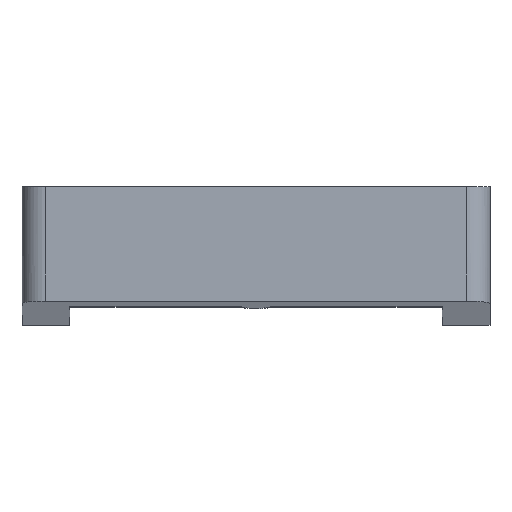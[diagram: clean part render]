
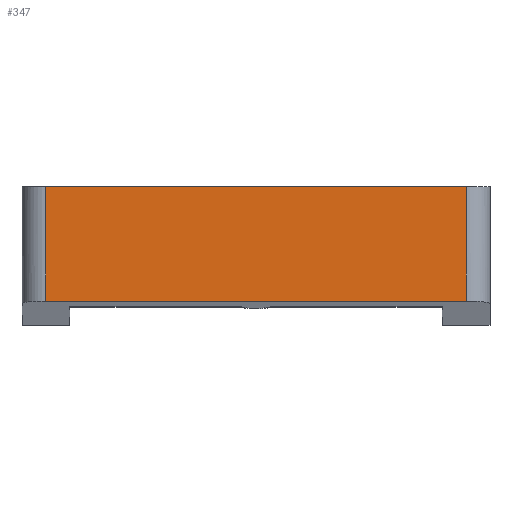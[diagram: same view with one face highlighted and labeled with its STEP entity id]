
A CAD part, top view. The second image highlights one B-rep face of the part: STEP entity #347.
In plain terms, the highlighted planar face has unit normal (0, 0, 1).
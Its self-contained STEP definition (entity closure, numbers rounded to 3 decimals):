
#44 = AXIS2_PLACEMENT_3D ( 'NONE', #306, #442, #445 ) ;
#52 = LINE ( 'NONE', #149, #730 ) ;
#62 = VERTEX_POINT ( 'NONE', #357 ) ;
#95 = CARTESIAN_POINT ( 'NONE',  ( -9.8, 2.9, 5.2 ) ) ;
#97 = DIRECTION ( 'NONE',  ( 1., 0., 0. ) ) ;
#101 = VECTOR ( 'NONE', #299, 1000. ) ;
#125 = LINE ( 'NONE', #164, #101 ) ;
#149 = CARTESIAN_POINT ( 'NONE',  ( -9.3, 0.5, 5.2 ) ) ;
#164 = CARTESIAN_POINT ( 'NONE',  ( -9.8, 0.5, 5.2 ) ) ;
#182 = CARTESIAN_POINT ( 'NONE',  ( -9.3, 2.9, 5.2 ) ) ;
#235 = VERTEX_POINT ( 'NONE', #452 ) ;
#246 = VERTEX_POINT ( 'NONE', #508 ) ;
#247 = ORIENTED_EDGE ( 'NONE', *, *, #595, .T. ) ;
#299 = DIRECTION ( 'NONE',  ( 1., 0., 0. ) ) ;
#306 = CARTESIAN_POINT ( 'NONE',  ( -9.8, 2.9, 5.2 ) ) ;
#334 = LINE ( 'NONE', #356, #653 ) ;
#347 = ADVANCED_FACE ( 'NONE', ( #830 ), #372, .F. ) ;
#356 = CARTESIAN_POINT ( 'NONE',  ( -0.5, 2.9, 5.2 ) ) ;
#357 = CARTESIAN_POINT ( 'NONE',  ( -0.5, 0.5, 5.2 ) ) ;
#372 = PLANE ( 'NONE',  #44 ) ;
#396 = VERTEX_POINT ( 'NONE', #182 ) ;
#442 = DIRECTION ( 'NONE',  ( 0., 0., -1. ) ) ;
#445 = DIRECTION ( 'NONE',  ( -1., 0., 0. ) ) ;
#452 = CARTESIAN_POINT ( 'NONE',  ( -9.3, 0.5, 5.2 ) ) ;
#463 = VECTOR ( 'NONE', #97, 1000. ) ;
#470 = EDGE_LOOP ( 'NONE', ( #577, #729, #247, #515 ) ) ;
#508 = CARTESIAN_POINT ( 'NONE',  ( -0.5, 2.9, 5.2 ) ) ;
#515 = ORIENTED_EDGE ( 'NONE', *, *, #554, .T. ) ;
#554 = EDGE_CURVE ( 'NONE', #62, #246, #334, .T. ) ;
#577 = ORIENTED_EDGE ( 'NONE', *, *, #582, .F. ) ;
#582 = EDGE_CURVE ( 'NONE', #396, #246, #630, .T. ) ;
#595 = EDGE_CURVE ( 'NONE', #235, #62, #125, .T. ) ;
#630 = LINE ( 'NONE', #95, #463 ) ;
#647 = EDGE_CURVE ( 'NONE', #396, #235, #52, .T. ) ;
#653 = VECTOR ( 'NONE', #743, 1000. ) ;
#729 = ORIENTED_EDGE ( 'NONE', *, *, #647, .T. ) ;
#730 = VECTOR ( 'NONE', #855, 1000. ) ;
#743 = DIRECTION ( 'NONE',  ( 0., 1., 0. ) ) ;
#830 = FACE_OUTER_BOUND ( 'NONE', #470, .T. ) ;
#855 = DIRECTION ( 'NONE',  ( 0., -1., 0. ) ) ;
